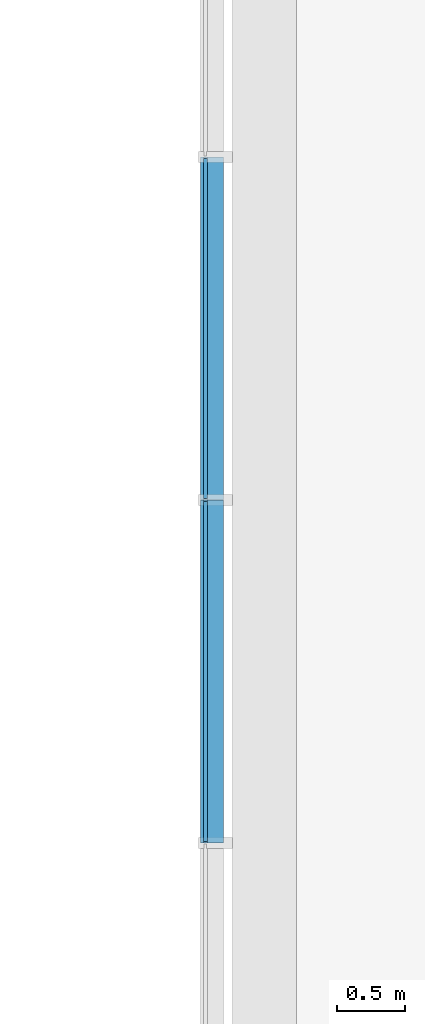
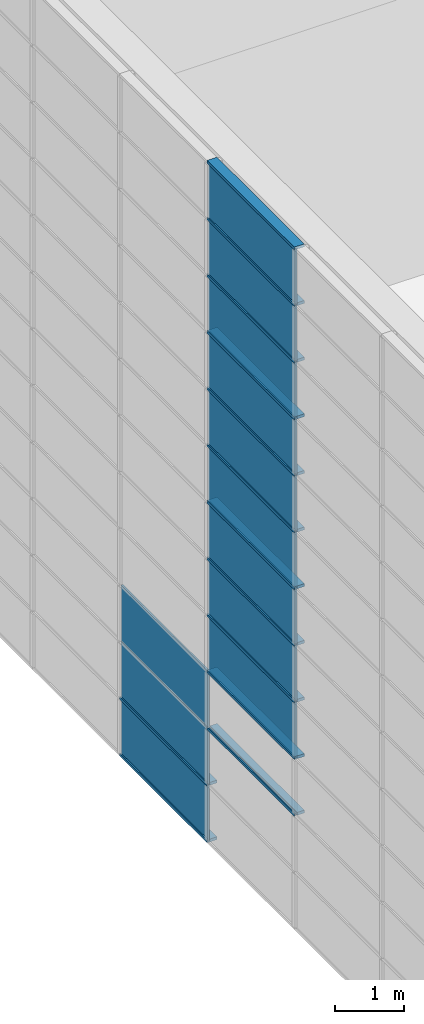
# One storey, part 35 of 105: 28 building element parts, 4 elements without a shape of their own.
"""IFC4 building model written with IfcOpenShell, lengths in millimetres."""

from ifc_helpers import new_model, entity, si_unit, converted_unit, derived_unit, direction, frame, origin_with_axes, place, context, subcontext, project, spatial, triangles, material, element, aggregate, save


model = new_model("IFC4")

# Units and contexts
model_context = context("Model", 3, precision=1e-05, world=origin_with_axes(), true_north=direction((0.0, 1.0)))
body_context = subcontext(model_context, "Body", "Model", "MODEL_VIEW")
ifc_project = project(units=[si_unit("LENGTHUNIT", "METRE", prefix="MILLI"), si_unit("AREAUNIT", "SQUARE_METRE"), si_unit("VOLUMEUNIT", "CUBIC_METRE"), converted_unit("PLANEANGLEUNIT", "DEGREE", entity("IfcLengthMeasure", 0.017453), si_unit("PLANEANGLEUNIT", "RADIAN"), dimensions=[0, 0, 0, 0, 0, 0, 0]), si_unit("SOLIDANGLEUNIT", "STERADIAN"), si_unit("MASSUNIT", "GRAM"), si_unit("TIMEUNIT", "SECOND"), si_unit("THERMODYNAMICTEMPERATUREUNIT", "DEGREE_CELSIUS"), si_unit("LUMINOUSINTENSITYUNIT", "LUMEN"), si_unit("POWERUNIT", "WATT"), derived_unit("THERMALTRANSMITTANCEUNIT", [(si_unit("POWERUNIT", "WATT"), 1), (si_unit("THERMODYNAMICTEMPERATUREUNIT", "KELVIN"), -1), (si_unit("AREAUNIT", "SQUARE_METRE"), -1)])], contexts=[model_context])

# Site, building, storey
site_placement = place(None, origin_with_axes())
site = spatial("IfcSite", under=ifc_project, at=site_placement, Name="Default Site", CompositionType="ELEMENT")
building_placement = place(site_placement, origin_with_axes())
building = spatial("IfcBuilding", under=site, at=building_placement, Name="Default Building", CompositionType="ELEMENT")
storey_placement = place(building_placement, origin_with_axes())
storey = spatial("IfcBuildingStorey", under=building, at=storey_placement, Name="OG - Story", CompositionType="ELEMENT", Elevation=0.0)

# Curtain wall, building element parts
curtain_wall_1_placement = place(storey_placement, origin_with_axes())
curtain_wall_1 = element("IfcCurtainWall", 1, at=curtain_wall_1_placement, inside=storey, Name="Fassade-003", PredefinedType="NOTDEFINED")
ifc_material_1 = material(Name="Normalglas")
building_element_part_1_placement = place(curtain_wall_1_placement, frame((31551.391327, -51326.104944, 0.0), z_axis=(0.0, 0.0, 1.0), x_axis=(1.0, 0.0, 0.0)))
building_element_part_1 = element("IfcBuildingElementPart", 2, at=building_element_part_1_placement, material=ifc_material_1, Name="Normalglas", PredefinedType="NOTDEFINED", context=body_context, shape_type="Tessellation", body=[
    triangles([(15.0, 41674.211, 995.0), (-14.999, 41674.211, 995.0), (-14.999, 39167.895, 995.0), (15.0, 39167.895, 995.0), (15.0, 41674.211, 5.0), (-14.999, 41674.211, 5.0), (-14.999, 39167.895, 5.0), (15.0, 39167.895, 5.0)], [[1, 2, 3], [1, 3, 4], [5, 6, 2], [5, 2, 1], [2, 6, 7], [2, 7, 3], [4, 3, 7], [4, 7, 8], [1, 4, 8], [1, 8, 5], [8, 7, 6], [8, 6, 5]], closed=False),
])
building_element_part_2_placement = place(curtain_wall_1_placement, frame((31551.391327, -51326.104944, 0.0), z_axis=(0.0, 0.0, 1.0), x_axis=(1.0, 0.0, 0.0)))
building_element_part_2 = element("IfcBuildingElementPart", 3, at=building_element_part_2_placement, material=ifc_material_1, Name="Normalglas", PredefinedType="NOTDEFINED", context=body_context, shape_type="Tessellation", body=[
    triangles([(15.0, 41674.211, 1995.0), (-14.999, 41674.211, 1995.0), (-14.999, 39167.895, 1995.0), (15.0, 39167.895, 1995.0), (15.0, 41674.211, 1005.0), (-14.999, 41674.211, 1005.0), (-14.999, 39167.895, 1005.0), (15.0, 39167.895, 1005.0)], [[1, 2, 3], [1, 3, 4], [5, 6, 2], [5, 2, 1], [2, 6, 7], [2, 7, 3], [4, 3, 7], [4, 7, 8], [1, 4, 8], [1, 8, 5], [8, 7, 6], [8, 6, 5]], closed=False),
])
building_element_part_3_placement = place(curtain_wall_1_placement, frame((31551.391327, -51326.104944, 0.0), z_axis=(0.0, 0.0, 1.0), x_axis=(1.0, 0.0, 0.0)))
building_element_part_3 = element("IfcBuildingElementPart", 4, at=building_element_part_3_placement, material=ifc_material_1, Name="Normalglas", PredefinedType="NOTDEFINED", context=body_context, shape_type="Tessellation", body=[
    triangles([(15.0, 41674.211, 2995.0), (-14.999, 41674.211, 2995.0), (-14.999, 39167.895, 2995.0), (15.0, 39167.895, 2995.0), (15.0, 41674.211, 2005.0), (-14.999, 41674.211, 2005.0), (-14.999, 39167.895, 2005.0), (15.0, 39167.895, 2005.0)], [[1, 2, 3], [1, 3, 4], [5, 6, 2], [5, 2, 1], [2, 6, 7], [2, 7, 3], [4, 3, 7], [4, 7, 8], [1, 4, 8], [1, 8, 5], [8, 7, 6], [8, 6, 5]], closed=False),
])
ifc_material_2 = material(Name="Blech")
building_element_part_4_placement = place(curtain_wall_1_placement, frame((31551.391327, -51326.104944, 0.0), z_axis=(0.0, 0.0, 1.0), x_axis=(1.0, 0.0, 0.0)))
building_element_part_4 = element("IfcBuildingElementPart", 5, at=building_element_part_4_placement, material=ifc_material_2, Name="Blech", PredefinedType="NOTDEFINED", context=body_context, shape_type="Tessellation", body=[
    triangles([(15.0, 41684.211, 25.0), (133.0, 41684.211, 25.0), (15.0, 41684.211, 5.0), (133.0, 41684.211, -24.999), (-14.999, 41684.211, 5.0), (-34.999, 41684.211, -24.999), (-34.999, 41684.211, 25.0), (-14.999, 41684.211, 25.0), (15.0, 39157.895, 5.0), (15.0, 39157.895, 25.0), (133.0, 39157.895, 25.0), (133.0, 39157.895, -24.999), (-34.999, 39157.895, -24.999), (-34.999, 39157.895, 25.0), (-14.999, 39157.895, 25.0), (-14.999, 39157.895, 5.0)], [[1, 2, 3], [3, 2, 4], [3, 4, 5], [5, 4, 6], [5, 6, 7], [5, 7, 8], [3, 9, 10], [3, 10, 1], [10, 11, 2], [10, 2, 1], [11, 12, 4], [11, 4, 2], [12, 13, 6], [12, 6, 4], [13, 14, 7], [13, 7, 6], [8, 7, 14], [8, 14, 15], [15, 16, 5], [15, 5, 8], [5, 16, 9], [5, 9, 3], [16, 9, 12], [16, 12, 13], [16, 13, 14], [16, 14, 15], [11, 12, 9], [11, 9, 10]], closed=False),
])
building_element_part_5_placement = place(curtain_wall_1_placement, frame((31551.391327, -51326.104944, 0.0), z_axis=(0.0, 0.0, 1.0), x_axis=(1.0, 0.0, 0.0)))
building_element_part_5 = element("IfcBuildingElementPart", 6, at=building_element_part_5_placement, material=ifc_material_2, Name="Blech", PredefinedType="NOTDEFINED", context=body_context, shape_type="Tessellation", body=[
    triangles([(-14.999, 41684.211, 1025.0), (-34.999, 41684.211, 1025.0), (-14.999, 41684.211, 1005.0), (-14.999, 41684.211, 995.0), (15.0, 41684.211, 1005.0), (133.0, 41684.211, 1025.0), (15.0, 41684.211, 1025.0), (-34.999, 41684.211, 975.0), (-14.999, 41684.211, 975.0), (15.0, 41684.211, 995.0), (15.0, 41684.211, 975.0), (133.0, 41684.211, 975.0), (15.0, 39157.895, 995.0), (-14.999, 39157.895, 995.0), (-14.999, 39157.895, 975.0), (-34.999, 39157.895, 975.0), (-34.999, 39157.895, 1025.0), (-14.999, 39157.895, 1025.0), (-14.999, 39157.895, 1005.0), (15.0, 39157.895, 1005.0), (15.0, 39157.895, 1025.0), (133.0, 39157.895, 1025.0), (133.0, 39157.895, 975.0), (15.0, 39157.895, 975.0)], [[1, 2, 3], [3, 2, 4], [3, 4, 5], [5, 4, 6], [5, 6, 7], [8, 9, 4], [8, 4, 2], [6, 4, 10], [6, 10, 11], [6, 11, 12], [10, 13, 14], [10, 14, 4], [4, 14, 15], [4, 15, 9], [15, 16, 8], [15, 8, 9], [8, 16, 17], [8, 17, 2], [18, 1, 2], [18, 2, 17], [1, 18, 19], [1, 19, 3], [5, 3, 19], [5, 19, 20], [7, 5, 20], [7, 20, 21], [7, 21, 22], [7, 22, 6], [6, 22, 23], [6, 23, 12], [11, 12, 23], [11, 23, 24], [11, 24, 13], [11, 13, 10], [21, 22, 20], [20, 22, 13], [20, 13, 19], [19, 13, 14], [19, 14, 17], [17, 14, 15], [17, 15, 16], [23, 24, 13], [23, 13, 22], [19, 17, 18]], closed=False),
])
building_element_part_6_placement = place(curtain_wall_1_placement, frame((31551.391327, -51326.104944, 0.0), z_axis=(0.0, 0.0, 1.0), x_axis=(1.0, 0.0, 0.0)))
building_element_part_6 = element("IfcBuildingElementPart", 7, at=building_element_part_6_placement, material=ifc_material_2, Name="Blech", PredefinedType="NOTDEFINED", context=body_context, shape_type="Tessellation", body=[
    triangles([(-14.999, 39157.895, 2025.0), (-34.999, 39157.895, 2025.0), (-14.999, 39157.895, 2005.0), (-14.999, 39157.895, 1995.0), (15.0, 39157.895, 2005.0), (133.0, 39157.895, 2025.0), (15.0, 39157.895, 2025.0), (-34.999, 39157.895, 1975.0), (-14.999, 39157.895, 1975.0), (15.0, 39157.895, 1995.0), (15.0, 39157.895, 1975.0), (133.0, 39157.895, 1975.0), (15.0, 36631.579, 1995.0), (-14.999, 36631.579, 1995.0), (-14.999, 36631.579, 1975.0), (-34.999, 36631.579, 1975.0), (-34.999, 36631.579, 2025.0), (-14.999, 36631.579, 2025.0), (-14.999, 36631.579, 2005.0), (15.0, 36631.579, 2005.0), (15.0, 36631.579, 2025.0), (133.0, 36631.579, 2025.0), (133.0, 36631.579, 1975.0), (15.0, 36631.579, 1975.0)], [[1, 2, 3], [3, 2, 4], [3, 4, 5], [5, 4, 6], [5, 6, 7], [8, 9, 4], [8, 4, 2], [6, 4, 10], [6, 10, 11], [6, 11, 12], [10, 13, 14], [10, 14, 4], [4, 14, 15], [4, 15, 9], [15, 16, 8], [15, 8, 9], [8, 16, 17], [8, 17, 2], [18, 1, 2], [18, 2, 17], [1, 18, 19], [1, 19, 3], [5, 3, 19], [5, 19, 20], [7, 5, 20], [7, 20, 21], [7, 21, 22], [7, 22, 6], [6, 22, 23], [6, 23, 12], [11, 12, 23], [11, 23, 24], [11, 24, 13], [11, 13, 10], [21, 22, 20], [20, 22, 13], [20, 13, 19], [19, 13, 14], [19, 14, 17], [17, 14, 15], [17, 15, 16], [23, 24, 13], [23, 13, 22], [19, 17, 18]], closed=False),
])
building_element_part_7_placement = place(curtain_wall_1_placement, frame((31551.391327, -51326.104944, 0.0), z_axis=(0.0, 0.0, 1.0), x_axis=(1.0, 0.0, 0.0)))
building_element_part_7 = element("IfcBuildingElementPart", 8, at=building_element_part_7_placement, material=ifc_material_2, Name="Blech", PredefinedType="NOTDEFINED", context=body_context, shape_type="Tessellation", body=[
    triangles([(-14.999, 39157.895, 2995.0), (15.0, 39157.895, 2995.0), (133.0, 39157.895, 3025.0), (-34.999, 39157.895, 3025.0), (-34.999, 39157.895, 2975.0), (-14.999, 39157.895, 2975.0), (15.0, 39157.895, 2975.0), (133.0, 39157.895, 2975.0), (15.0, 36631.579, 2995.0), (-14.999, 36631.579, 2995.0), (-14.999, 36631.579, 2975.0), (-34.999, 36631.579, 2975.0), (-34.999, 36631.579, 3025.0), (133.0, 36631.579, 3025.0), (133.0, 36631.579, 2975.0), (15.0, 36631.579, 2975.0)], [[1, 2, 3], [1, 3, 4], [1, 4, 5], [1, 5, 6], [7, 8, 3], [7, 3, 2], [1, 2, 9], [1, 9, 10], [11, 6, 1], [11, 1, 10], [6, 11, 12], [6, 12, 5], [13, 4, 5], [13, 5, 12], [14, 3, 4], [14, 4, 13], [15, 8, 3], [15, 3, 14], [16, 7, 8], [16, 8, 15], [2, 7, 16], [2, 16, 9], [10, 9, 14], [10, 14, 13], [10, 13, 12], [10, 12, 11], [16, 15, 14], [16, 14, 9]], closed=False),
])
aggregate(curtain_wall_1, [building_element_part_1, building_element_part_2, building_element_part_3, building_element_part_4, building_element_part_5, building_element_part_6, building_element_part_7])

curtain_wall_2_placement = place(storey_placement, origin_with_axes())
curtain_wall_2 = element("IfcCurtainWall", 9, at=curtain_wall_2_placement, inside=storey, Name="Fassade-003", PredefinedType="NOTDEFINED")
building_element_part_8_placement = place(curtain_wall_2_placement, frame((31551.391327, -51326.104944, 3000.0), z_axis=(0.0, 0.0, 1.0), x_axis=(1.0, 0.0, 0.0)))
building_element_part_8 = element("IfcBuildingElementPart", 10, at=building_element_part_8_placement, material=ifc_material_1, Name="Normalglas", PredefinedType="NOTDEFINED", context=body_context, shape_type="Tessellation", body=[
    triangles([(15.0, 39147.895, 995.0), (-14.999, 39147.895, 995.0), (-14.999, 36641.579, 995.0), (15.0, 36641.579, 995.0), (15.0, 39147.895, 5.0), (-14.999, 39147.895, 5.0), (-14.999, 36641.579, 5.0), (15.0, 36641.579, 5.0)], [[1, 2, 3], [1, 3, 4], [5, 6, 2], [5, 2, 1], [2, 6, 7], [2, 7, 3], [4, 3, 7], [4, 7, 8], [1, 4, 8], [1, 8, 5], [8, 7, 6], [8, 6, 5]], closed=False),
])
building_element_part_9_placement = place(curtain_wall_2_placement, frame((31551.391327, -51326.104944, 3000.0), z_axis=(0.0, 0.0, 1.0), x_axis=(1.0, 0.0, 0.0)))
building_element_part_9 = element("IfcBuildingElementPart", 11, at=building_element_part_9_placement, material=ifc_material_1, Name="Normalglas", PredefinedType="NOTDEFINED", context=body_context, shape_type="Tessellation", body=[
    triangles([(15.0, 39147.895, 1995.0), (-14.999, 39147.895, 1995.0), (-14.999, 36641.579, 1995.0), (15.0, 36641.579, 1995.0), (15.0, 39147.895, 1005.0), (-14.999, 39147.895, 1005.0), (-14.999, 36641.579, 1005.0), (15.0, 36641.579, 1005.0)], [[1, 2, 3], [1, 3, 4], [5, 6, 2], [5, 2, 1], [2, 6, 7], [2, 7, 3], [4, 3, 7], [4, 7, 8], [1, 4, 8], [1, 8, 5], [8, 7, 6], [8, 6, 5]], closed=False),
])
building_element_part_10_placement = place(curtain_wall_2_placement, frame((31551.391327, -51326.104944, 3000.0), z_axis=(0.0, 0.0, 1.0), x_axis=(1.0, 0.0, 0.0)))
building_element_part_10 = element("IfcBuildingElementPart", 12, at=building_element_part_10_placement, material=ifc_material_1, Name="Normalglas", PredefinedType="NOTDEFINED", context=body_context, shape_type="Tessellation", body=[
    triangles([(15.0, 39147.895, 2995.0), (-14.999, 39147.895, 2995.0), (-14.999, 36641.579, 2995.0), (15.0, 36641.579, 2995.0), (15.0, 39147.895, 2005.0), (-14.999, 39147.895, 2005.0), (-14.999, 36641.579, 2005.0), (15.0, 36641.579, 2005.0)], [[1, 2, 3], [1, 3, 4], [5, 6, 2], [5, 2, 1], [2, 6, 7], [2, 7, 3], [4, 3, 7], [4, 7, 8], [1, 4, 8], [1, 8, 5], [8, 7, 6], [8, 6, 5]], closed=False),
])
building_element_part_11_placement = place(curtain_wall_2_placement, frame((31551.391327, -51326.104944, 3000.0), z_axis=(0.0, 0.0, 1.0), x_axis=(1.0, 0.0, 0.0)))
building_element_part_11 = element("IfcBuildingElementPart", 13, at=building_element_part_11_placement, material=ifc_material_2, Name="Blech", PredefinedType="NOTDEFINED", context=body_context, shape_type="Tessellation", body=[
    triangles([(15.0, 39157.895, 25.0), (133.0, 39157.895, 25.0), (15.0, 39157.895, 5.0), (133.0, 39157.895, -24.999), (-14.999, 39157.895, 5.0), (-34.999, 39157.895, -24.999), (-34.999, 39157.895, 25.0), (-14.999, 39157.895, 25.0), (15.0, 36631.579, 5.0), (15.0, 36631.579, 25.0), (133.0, 36631.579, 25.0), (133.0, 36631.579, -24.999), (-34.999, 36631.579, -24.999), (-34.999, 36631.579, 25.0), (-14.999, 36631.579, 25.0), (-14.999, 36631.579, 5.0)], [[1, 2, 3], [3, 2, 4], [3, 4, 5], [5, 4, 6], [5, 6, 7], [5, 7, 8], [3, 9, 10], [3, 10, 1], [10, 11, 2], [10, 2, 1], [11, 12, 4], [11, 4, 2], [12, 13, 6], [12, 6, 4], [13, 14, 7], [13, 7, 6], [8, 7, 14], [8, 14, 15], [15, 16, 5], [15, 5, 8], [5, 16, 9], [5, 9, 3], [16, 9, 12], [16, 12, 13], [16, 13, 14], [16, 14, 15], [11, 12, 9], [11, 9, 10]], closed=False),
])
building_element_part_12_placement = place(curtain_wall_2_placement, frame((31551.391327, -51326.104944, 3000.0), z_axis=(0.0, 0.0, 1.0), x_axis=(1.0, 0.0, 0.0)))
building_element_part_12 = element("IfcBuildingElementPart", 14, at=building_element_part_12_placement, material=ifc_material_2, Name="Blech", PredefinedType="NOTDEFINED", context=body_context, shape_type="Tessellation", body=[
    triangles([(-14.999, 39157.895, 1025.0), (-34.999, 39157.895, 1025.0), (-14.999, 39157.895, 1005.0), (-14.999, 39157.895, 995.0), (15.0, 39157.895, 1005.0), (133.0, 39157.895, 1025.0), (15.0, 39157.895, 1025.0), (-34.999, 39157.895, 975.0), (-14.999, 39157.895, 975.0), (15.0, 39157.895, 995.0), (15.0, 39157.895, 975.0), (133.0, 39157.895, 975.0), (15.0, 36631.579, 995.0), (-14.999, 36631.579, 995.0), (-14.999, 36631.579, 975.0), (-34.999, 36631.579, 975.0), (-34.999, 36631.579, 1025.0), (-14.999, 36631.579, 1025.0), (-14.999, 36631.579, 1005.0), (15.0, 36631.579, 1005.0), (15.0, 36631.579, 1025.0), (133.0, 36631.579, 1025.0), (133.0, 36631.579, 975.0), (15.0, 36631.579, 975.0)], [[1, 2, 3], [3, 2, 4], [3, 4, 5], [5, 4, 6], [5, 6, 7], [8, 9, 4], [8, 4, 2], [6, 4, 10], [6, 10, 11], [6, 11, 12], [10, 13, 14], [10, 14, 4], [4, 14, 15], [4, 15, 9], [15, 16, 8], [15, 8, 9], [8, 16, 17], [8, 17, 2], [18, 1, 2], [18, 2, 17], [1, 18, 19], [1, 19, 3], [5, 3, 19], [5, 19, 20], [7, 5, 20], [7, 20, 21], [7, 21, 22], [7, 22, 6], [6, 22, 23], [6, 23, 12], [11, 12, 23], [11, 23, 24], [11, 24, 13], [11, 13, 10], [21, 22, 20], [20, 22, 13], [20, 13, 19], [19, 13, 14], [19, 14, 17], [17, 14, 15], [17, 15, 16], [23, 24, 13], [23, 13, 22], [19, 17, 18]], closed=False),
])
building_element_part_13_placement = place(curtain_wall_2_placement, frame((31551.391327, -51326.104944, 3000.0), z_axis=(0.0, 0.0, 1.0), x_axis=(1.0, 0.0, 0.0)))
building_element_part_13 = element("IfcBuildingElementPart", 15, at=building_element_part_13_placement, material=ifc_material_2, Name="Blech", PredefinedType="NOTDEFINED", context=body_context, shape_type="Tessellation", body=[
    triangles([(-14.999, 39157.895, 2025.0), (-34.999, 39157.895, 2025.0), (-14.999, 39157.895, 2005.0), (-14.999, 39157.895, 1995.0), (15.0, 39157.895, 2005.0), (133.0, 39157.895, 2025.0), (15.0, 39157.895, 2025.0), (-34.999, 39157.895, 1975.0), (-14.999, 39157.895, 1975.0), (15.0, 39157.895, 1995.0), (15.0, 39157.895, 1975.0), (133.0, 39157.895, 1975.0), (15.0, 36631.579, 1995.0), (-14.999, 36631.579, 1995.0), (-14.999, 36631.579, 1975.0), (-34.999, 36631.579, 1975.0), (-34.999, 36631.579, 2025.0), (-14.999, 36631.579, 2025.0), (-14.999, 36631.579, 2005.0), (15.0, 36631.579, 2005.0), (15.0, 36631.579, 2025.0), (133.0, 36631.579, 2025.0), (133.0, 36631.579, 1975.0), (15.0, 36631.579, 1975.0)], [[1, 2, 3], [3, 2, 4], [3, 4, 5], [5, 4, 6], [5, 6, 7], [8, 9, 4], [8, 4, 2], [6, 4, 10], [6, 10, 11], [6, 11, 12], [10, 13, 14], [10, 14, 4], [4, 14, 15], [4, 15, 9], [15, 16, 8], [15, 8, 9], [8, 16, 17], [8, 17, 2], [18, 1, 2], [18, 2, 17], [1, 18, 19], [1, 19, 3], [5, 3, 19], [5, 19, 20], [7, 5, 20], [7, 20, 21], [7, 21, 22], [7, 22, 6], [6, 22, 23], [6, 23, 12], [11, 12, 23], [11, 23, 24], [11, 24, 13], [11, 13, 10], [21, 22, 20], [20, 22, 13], [20, 13, 19], [19, 13, 14], [19, 14, 17], [17, 14, 15], [17, 15, 16], [23, 24, 13], [23, 13, 22], [19, 17, 18]], closed=False),
])
building_element_part_14_placement = place(curtain_wall_2_placement, frame((31551.391327, -51326.104944, 3000.0), z_axis=(0.0, 0.0, 1.0), x_axis=(1.0, 0.0, 0.0)))
building_element_part_14 = element("IfcBuildingElementPart", 16, at=building_element_part_14_placement, material=ifc_material_2, Name="Blech", PredefinedType="NOTDEFINED", context=body_context, shape_type="Tessellation", body=[
    triangles([(-14.999, 39157.895, 2995.0), (15.0, 39157.895, 2995.0), (133.0, 39157.895, 3025.0), (-34.999, 39157.895, 3025.0), (-34.999, 39157.895, 2975.0), (-14.999, 39157.895, 2975.0), (15.0, 39157.895, 2975.0), (133.0, 39157.895, 2975.0), (15.0, 36631.579, 2995.0), (-14.999, 36631.579, 2995.0), (-14.999, 36631.579, 2975.0), (-34.999, 36631.579, 2975.0), (-34.999, 36631.579, 3025.0), (133.0, 36631.579, 3025.0), (133.0, 36631.579, 2975.0), (15.0, 36631.579, 2975.0)], [[1, 2, 3], [1, 3, 4], [1, 4, 5], [1, 5, 6], [7, 8, 3], [7, 3, 2], [1, 2, 9], [1, 9, 10], [11, 6, 1], [11, 1, 10], [6, 11, 12], [6, 12, 5], [13, 4, 5], [13, 5, 12], [14, 3, 4], [14, 4, 13], [15, 8, 3], [15, 3, 14], [16, 7, 8], [16, 8, 15], [2, 7, 16], [2, 16, 9], [10, 9, 14], [10, 14, 13], [10, 13, 12], [10, 12, 11], [16, 15, 14], [16, 14, 9]], closed=False),
])
aggregate(curtain_wall_2, [building_element_part_8, building_element_part_9, building_element_part_10, building_element_part_11, building_element_part_12, building_element_part_13, building_element_part_14])

curtain_wall_3_placement = place(storey_placement, origin_with_axes())
curtain_wall_3 = element("IfcCurtainWall", 17, at=curtain_wall_3_placement, inside=storey, Name="Fassade-003", PredefinedType="NOTDEFINED")
building_element_part_15_placement = place(curtain_wall_3_placement, frame((31551.391327, -51326.104944, 6000.0), z_axis=(0.0, 0.0, 1.0), x_axis=(1.0, 0.0, 0.0)))
building_element_part_15 = element("IfcBuildingElementPart", 18, at=building_element_part_15_placement, material=ifc_material_1, Name="Normalglas", PredefinedType="NOTDEFINED", context=body_context, shape_type="Tessellation", body=[
    triangles([(15.0, 39147.895, 995.0), (-14.999, 39147.895, 995.0), (-14.999, 36641.579, 995.0), (15.0, 36641.579, 995.0), (15.0, 39147.895, 5.0), (-14.999, 39147.895, 5.0), (-14.999, 36641.579, 5.0), (15.0, 36641.579, 5.0)], [[1, 2, 3], [1, 3, 4], [5, 6, 2], [5, 2, 1], [2, 6, 7], [2, 7, 3], [4, 3, 7], [4, 7, 8], [1, 4, 8], [1, 8, 5], [8, 7, 6], [8, 6, 5]], closed=False),
])
building_element_part_16_placement = place(curtain_wall_3_placement, frame((31551.391327, -51326.104944, 6000.0), z_axis=(0.0, 0.0, 1.0), x_axis=(1.0, 0.0, 0.0)))
building_element_part_16 = element("IfcBuildingElementPart", 19, at=building_element_part_16_placement, material=ifc_material_1, Name="Normalglas", PredefinedType="NOTDEFINED", context=body_context, shape_type="Tessellation", body=[
    triangles([(15.0, 39147.895, 1995.0), (-14.999, 39147.895, 1995.0), (-14.999, 36641.579, 1995.0), (15.0, 36641.579, 1995.0), (15.0, 39147.895, 1005.0), (-14.999, 39147.895, 1005.0), (-14.999, 36641.579, 1005.0), (15.0, 36641.579, 1005.0)], [[1, 2, 3], [1, 3, 4], [5, 6, 2], [5, 2, 1], [2, 6, 7], [2, 7, 3], [4, 3, 7], [4, 7, 8], [1, 4, 8], [1, 8, 5], [8, 7, 6], [8, 6, 5]], closed=False),
])
building_element_part_17_placement = place(curtain_wall_3_placement, frame((31551.391327, -51326.104944, 6000.0), z_axis=(0.0, 0.0, 1.0), x_axis=(1.0, 0.0, 0.0)))
building_element_part_17 = element("IfcBuildingElementPart", 20, at=building_element_part_17_placement, material=ifc_material_1, Name="Normalglas", PredefinedType="NOTDEFINED", context=body_context, shape_type="Tessellation", body=[
    triangles([(15.0, 39147.895, 2995.0), (-14.999, 39147.895, 2995.0), (-14.999, 36641.579, 2995.0), (15.0, 36641.579, 2995.0), (15.0, 39147.895, 2005.0), (-14.999, 39147.895, 2005.0), (-14.999, 36641.579, 2005.0), (15.0, 36641.579, 2005.0)], [[1, 2, 3], [1, 3, 4], [5, 6, 2], [5, 2, 1], [2, 6, 7], [2, 7, 3], [4, 3, 7], [4, 7, 8], [1, 4, 8], [1, 8, 5], [8, 7, 6], [8, 6, 5]], closed=False),
])
building_element_part_18_placement = place(curtain_wall_3_placement, frame((31551.391327, -51326.104944, 6000.0), z_axis=(0.0, 0.0, 1.0), x_axis=(1.0, 0.0, 0.0)))
building_element_part_18 = element("IfcBuildingElementPart", 21, at=building_element_part_18_placement, material=ifc_material_2, Name="Blech", PredefinedType="NOTDEFINED", context=body_context, shape_type="Tessellation", body=[
    triangles([(15.0, 39157.895, 25.0), (133.0, 39157.895, 25.0), (15.0, 39157.895, 5.0), (133.0, 39157.895, -24.999), (-14.999, 39157.895, 5.0), (-34.999, 39157.895, -24.999), (-34.999, 39157.895, 25.0), (-14.999, 39157.895, 25.0), (15.0, 36631.579, 5.0), (15.0, 36631.579, 25.0), (133.0, 36631.579, 25.0), (133.0, 36631.579, -24.999), (-34.999, 36631.579, -24.999), (-34.999, 36631.579, 25.0), (-14.999, 36631.579, 25.0), (-14.999, 36631.579, 5.0)], [[1, 2, 3], [3, 2, 4], [3, 4, 5], [5, 4, 6], [5, 6, 7], [5, 7, 8], [3, 9, 10], [3, 10, 1], [10, 11, 2], [10, 2, 1], [11, 12, 4], [11, 4, 2], [12, 13, 6], [12, 6, 4], [13, 14, 7], [13, 7, 6], [8, 7, 14], [8, 14, 15], [15, 16, 5], [15, 5, 8], [5, 16, 9], [5, 9, 3], [16, 9, 12], [16, 12, 13], [16, 13, 14], [16, 14, 15], [11, 12, 9], [11, 9, 10]], closed=False),
])
building_element_part_19_placement = place(curtain_wall_3_placement, frame((31551.391327, -51326.104944, 6000.0), z_axis=(0.0, 0.0, 1.0), x_axis=(1.0, 0.0, 0.0)))
building_element_part_19 = element("IfcBuildingElementPart", 22, at=building_element_part_19_placement, material=ifc_material_2, Name="Blech", PredefinedType="NOTDEFINED", context=body_context, shape_type="Tessellation", body=[
    triangles([(-14.999, 39157.895, 1025.0), (-34.999, 39157.895, 1025.0), (-14.999, 39157.895, 1005.0), (-14.999, 39157.895, 995.0), (15.0, 39157.895, 1005.0), (133.0, 39157.895, 1025.0), (15.0, 39157.895, 1025.0), (-34.999, 39157.895, 975.0), (-14.999, 39157.895, 975.0), (15.0, 39157.895, 995.0), (15.0, 39157.895, 975.0), (133.0, 39157.895, 975.0), (15.0, 36631.579, 995.0), (-14.999, 36631.579, 995.0), (-14.999, 36631.579, 975.0), (-34.999, 36631.579, 975.0), (-34.999, 36631.579, 1025.0), (-14.999, 36631.579, 1025.0), (-14.999, 36631.579, 1005.0), (15.0, 36631.579, 1005.0), (15.0, 36631.579, 1025.0), (133.0, 36631.579, 1025.0), (133.0, 36631.579, 975.0), (15.0, 36631.579, 975.0)], [[1, 2, 3], [3, 2, 4], [3, 4, 5], [5, 4, 6], [5, 6, 7], [8, 9, 4], [8, 4, 2], [6, 4, 10], [6, 10, 11], [6, 11, 12], [10, 13, 14], [10, 14, 4], [4, 14, 15], [4, 15, 9], [15, 16, 8], [15, 8, 9], [8, 16, 17], [8, 17, 2], [18, 1, 2], [18, 2, 17], [1, 18, 19], [1, 19, 3], [5, 3, 19], [5, 19, 20], [7, 5, 20], [7, 20, 21], [7, 21, 22], [7, 22, 6], [6, 22, 23], [6, 23, 12], [11, 12, 23], [11, 23, 24], [11, 24, 13], [11, 13, 10], [21, 22, 20], [20, 22, 13], [20, 13, 19], [19, 13, 14], [19, 14, 17], [17, 14, 15], [17, 15, 16], [23, 24, 13], [23, 13, 22], [19, 17, 18]], closed=False),
])
building_element_part_20_placement = place(curtain_wall_3_placement, frame((31551.391327, -51326.104944, 6000.0), z_axis=(0.0, 0.0, 1.0), x_axis=(1.0, 0.0, 0.0)))
building_element_part_20 = element("IfcBuildingElementPart", 23, at=building_element_part_20_placement, material=ifc_material_2, Name="Blech", PredefinedType="NOTDEFINED", context=body_context, shape_type="Tessellation", body=[
    triangles([(-14.999, 39157.895, 2025.0), (-34.999, 39157.895, 2025.0), (-14.999, 39157.895, 2005.0), (-14.999, 39157.895, 1995.0), (15.0, 39157.895, 2005.0), (133.0, 39157.895, 2025.0), (15.0, 39157.895, 2025.0), (-34.999, 39157.895, 1975.0), (-14.999, 39157.895, 1975.0), (15.0, 39157.895, 1995.0), (15.0, 39157.895, 1975.0), (133.0, 39157.895, 1975.0), (15.0, 36631.579, 1995.0), (-14.999, 36631.579, 1995.0), (-14.999, 36631.579, 1975.0), (-34.999, 36631.579, 1975.0), (-34.999, 36631.579, 2025.0), (-14.999, 36631.579, 2025.0), (-14.999, 36631.579, 2005.0), (15.0, 36631.579, 2005.0), (15.0, 36631.579, 2025.0), (133.0, 36631.579, 2025.0), (133.0, 36631.579, 1975.0), (15.0, 36631.579, 1975.0)], [[1, 2, 3], [3, 2, 4], [3, 4, 5], [5, 4, 6], [5, 6, 7], [8, 9, 4], [8, 4, 2], [6, 4, 10], [6, 10, 11], [6, 11, 12], [10, 13, 14], [10, 14, 4], [4, 14, 15], [4, 15, 9], [15, 16, 8], [15, 8, 9], [8, 16, 17], [8, 17, 2], [18, 1, 2], [18, 2, 17], [1, 18, 19], [1, 19, 3], [5, 3, 19], [5, 19, 20], [7, 5, 20], [7, 20, 21], [7, 21, 22], [7, 22, 6], [6, 22, 23], [6, 23, 12], [11, 12, 23], [11, 23, 24], [11, 24, 13], [11, 13, 10], [21, 22, 20], [20, 22, 13], [20, 13, 19], [19, 13, 14], [19, 14, 17], [17, 14, 15], [17, 15, 16], [23, 24, 13], [23, 13, 22], [19, 17, 18]], closed=False),
])
building_element_part_21_placement = place(curtain_wall_3_placement, frame((31551.391327, -51326.104944, 6000.0), z_axis=(0.0, 0.0, 1.0), x_axis=(1.0, 0.0, 0.0)))
building_element_part_21 = element("IfcBuildingElementPart", 24, at=building_element_part_21_placement, material=ifc_material_2, Name="Blech", PredefinedType="NOTDEFINED", context=body_context, shape_type="Tessellation", body=[
    triangles([(-14.999, 39157.895, 2995.0), (15.0, 39157.895, 2995.0), (133.0, 39157.895, 3025.0), (-34.999, 39157.895, 3025.0), (-34.999, 39157.895, 2975.0), (-14.999, 39157.895, 2975.0), (15.0, 39157.895, 2975.0), (133.0, 39157.895, 2975.0), (15.0, 36631.579, 2995.0), (-14.999, 36631.579, 2995.0), (-14.999, 36631.579, 2975.0), (-34.999, 36631.579, 2975.0), (-34.999, 36631.579, 3025.0), (133.0, 36631.579, 3025.0), (133.0, 36631.579, 2975.0), (15.0, 36631.579, 2975.0)], [[1, 2, 3], [1, 3, 4], [1, 4, 5], [1, 5, 6], [7, 8, 3], [7, 3, 2], [1, 2, 9], [1, 9, 10], [11, 6, 1], [11, 1, 10], [6, 11, 12], [6, 12, 5], [13, 4, 5], [13, 5, 12], [14, 3, 4], [14, 4, 13], [15, 8, 3], [15, 3, 14], [16, 7, 8], [16, 8, 15], [2, 7, 16], [2, 16, 9], [10, 9, 14], [10, 14, 13], [10, 13, 12], [10, 12, 11], [16, 15, 14], [16, 14, 9]], closed=False),
])
aggregate(curtain_wall_3, [building_element_part_15, building_element_part_16, building_element_part_17, building_element_part_18, building_element_part_19, building_element_part_20, building_element_part_21])

curtain_wall_4_placement = place(storey_placement, origin_with_axes())
curtain_wall_4 = element("IfcCurtainWall", 25, at=curtain_wall_4_placement, inside=storey, Name="Fassade-003", PredefinedType="NOTDEFINED")
building_element_part_22_placement = place(curtain_wall_4_placement, frame((31551.391327, -51326.104944, 9000.0), z_axis=(0.0, 0.0, 1.0), x_axis=(1.0, 0.0, 0.0)))
building_element_part_22 = element("IfcBuildingElementPart", 26, at=building_element_part_22_placement, material=ifc_material_1, Name="Normalglas", PredefinedType="NOTDEFINED", context=body_context, shape_type="Tessellation", body=[
    triangles([(15.0, 39147.895, 995.0), (-14.999, 39147.895, 995.0), (-14.999, 36641.579, 995.0), (15.0, 36641.579, 995.0), (15.0, 39147.895, 5.0), (-14.999, 39147.895, 5.0), (-14.999, 36641.579, 5.0), (15.0, 36641.579, 5.0)], [[1, 2, 3], [1, 3, 4], [5, 6, 2], [5, 2, 1], [2, 6, 7], [2, 7, 3], [4, 3, 7], [4, 7, 8], [1, 4, 8], [1, 8, 5], [8, 7, 6], [8, 6, 5]], closed=False),
])
building_element_part_23_placement = place(curtain_wall_4_placement, frame((31551.391327, -51326.104944, 9000.0), z_axis=(0.0, 0.0, 1.0), x_axis=(1.0, 0.0, 0.0)))
building_element_part_23 = element("IfcBuildingElementPart", 27, at=building_element_part_23_placement, material=ifc_material_1, Name="Normalglas", PredefinedType="NOTDEFINED", context=body_context, shape_type="Tessellation", body=[
    triangles([(15.0, 39147.895, 1995.0), (-14.999, 39147.895, 1995.0), (-14.999, 36641.579, 1995.0), (15.0, 36641.579, 1995.0), (15.0, 39147.895, 1005.0), (-14.999, 39147.895, 1005.0), (-14.999, 36641.579, 1005.0), (15.0, 36641.579, 1005.0)], [[1, 2, 3], [1, 3, 4], [5, 6, 2], [5, 2, 1], [2, 6, 7], [2, 7, 3], [4, 3, 7], [4, 7, 8], [1, 4, 8], [1, 8, 5], [8, 7, 6], [8, 6, 5]], closed=False),
])
building_element_part_24_placement = place(curtain_wall_4_placement, frame((31551.391327, -51326.104944, 9000.0), z_axis=(0.0, 0.0, 1.0), x_axis=(1.0, 0.0, 0.0)))
building_element_part_24 = element("IfcBuildingElementPart", 28, at=building_element_part_24_placement, material=ifc_material_1, Name="Normalglas", PredefinedType="NOTDEFINED", context=body_context, shape_type="Tessellation", body=[
    triangles([(15.0, 39147.895, 2995.0), (-14.999, 39147.895, 2995.0), (-14.999, 36641.579, 2995.0), (15.0, 36641.579, 2995.0), (15.0, 39147.895, 2005.0), (-14.999, 39147.895, 2005.0), (-14.999, 36641.579, 2005.0), (15.0, 36641.579, 2005.0)], [[1, 2, 3], [1, 3, 4], [5, 6, 2], [5, 2, 1], [2, 6, 7], [2, 7, 3], [4, 3, 7], [4, 7, 8], [1, 4, 8], [1, 8, 5], [8, 7, 6], [8, 6, 5]], closed=False),
])
building_element_part_25_placement = place(curtain_wall_4_placement, frame((31551.391327, -51326.104944, 9000.0), z_axis=(0.0, 0.0, 1.0), x_axis=(1.0, 0.0, 0.0)))
building_element_part_25 = element("IfcBuildingElementPart", 29, at=building_element_part_25_placement, material=ifc_material_2, Name="Blech", PredefinedType="NOTDEFINED", context=body_context, shape_type="Tessellation", body=[
    triangles([(15.0, 39157.895, 25.0), (133.0, 39157.895, 25.0), (15.0, 39157.895, 5.0), (133.0, 39157.895, -24.999), (-14.999, 39157.895, 5.0), (-34.999, 39157.895, -24.999), (-34.999, 39157.895, 25.0), (-14.999, 39157.895, 25.0), (15.0, 36631.579, 5.0), (15.0, 36631.579, 25.0), (133.0, 36631.579, 25.0), (133.0, 36631.579, -24.999), (-34.999, 36631.579, -24.999), (-34.999, 36631.579, 25.0), (-14.999, 36631.579, 25.0), (-14.999, 36631.579, 5.0)], [[1, 2, 3], [3, 2, 4], [3, 4, 5], [5, 4, 6], [5, 6, 7], [5, 7, 8], [3, 9, 10], [3, 10, 1], [10, 11, 2], [10, 2, 1], [11, 12, 4], [11, 4, 2], [12, 13, 6], [12, 6, 4], [13, 14, 7], [13, 7, 6], [8, 7, 14], [8, 14, 15], [15, 16, 5], [15, 5, 8], [5, 16, 9], [5, 9, 3], [16, 9, 12], [16, 12, 13], [16, 13, 14], [16, 14, 15], [11, 12, 9], [11, 9, 10]], closed=False),
])
building_element_part_26_placement = place(curtain_wall_4_placement, frame((31551.391327, -51326.104944, 9000.0), z_axis=(0.0, 0.0, 1.0), x_axis=(1.0, 0.0, 0.0)))
building_element_part_26 = element("IfcBuildingElementPart", 30, at=building_element_part_26_placement, material=ifc_material_2, Name="Blech", PredefinedType="NOTDEFINED", context=body_context, shape_type="Tessellation", body=[
    triangles([(-14.999, 39157.895, 1025.0), (-34.999, 39157.895, 1025.0), (-14.999, 39157.895, 1005.0), (-14.999, 39157.895, 995.0), (15.0, 39157.895, 1005.0), (133.0, 39157.895, 1025.0), (15.0, 39157.895, 1025.0), (-34.999, 39157.895, 975.0), (-14.999, 39157.895, 975.0), (15.0, 39157.895, 995.0), (15.0, 39157.895, 975.0), (133.0, 39157.895, 975.0), (15.0, 36631.579, 995.0), (-14.999, 36631.579, 995.0), (-14.999, 36631.579, 975.0), (-34.999, 36631.579, 975.0), (-34.999, 36631.579, 1025.0), (-14.999, 36631.579, 1025.0), (-14.999, 36631.579, 1005.0), (15.0, 36631.579, 1005.0), (15.0, 36631.579, 1025.0), (133.0, 36631.579, 1025.0), (133.0, 36631.579, 975.0), (15.0, 36631.579, 975.0)], [[1, 2, 3], [3, 2, 4], [3, 4, 5], [5, 4, 6], [5, 6, 7], [8, 9, 4], [8, 4, 2], [6, 4, 10], [6, 10, 11], [6, 11, 12], [10, 13, 14], [10, 14, 4], [4, 14, 15], [4, 15, 9], [15, 16, 8], [15, 8, 9], [8, 16, 17], [8, 17, 2], [18, 1, 2], [18, 2, 17], [1, 18, 19], [1, 19, 3], [5, 3, 19], [5, 19, 20], [7, 5, 20], [7, 20, 21], [7, 21, 22], [7, 22, 6], [6, 22, 23], [6, 23, 12], [11, 12, 23], [11, 23, 24], [11, 24, 13], [11, 13, 10], [21, 22, 20], [20, 22, 13], [20, 13, 19], [19, 13, 14], [19, 14, 17], [17, 14, 15], [17, 15, 16], [23, 24, 13], [23, 13, 22], [19, 17, 18]], closed=False),
])
building_element_part_27_placement = place(curtain_wall_4_placement, frame((31551.391327, -51326.104944, 9000.0), z_axis=(0.0, 0.0, 1.0), x_axis=(1.0, 0.0, 0.0)))
building_element_part_27 = element("IfcBuildingElementPart", 31, at=building_element_part_27_placement, material=ifc_material_2, Name="Blech", PredefinedType="NOTDEFINED", context=body_context, shape_type="Tessellation", body=[
    triangles([(-14.999, 39157.895, 2025.0), (-34.999, 39157.895, 2025.0), (-14.999, 39157.895, 2005.0), (-14.999, 39157.895, 1995.0), (15.0, 39157.895, 2005.0), (133.0, 39157.895, 2025.0), (15.0, 39157.895, 2025.0), (-34.999, 39157.895, 1975.0), (-14.999, 39157.895, 1975.0), (15.0, 39157.895, 1995.0), (15.0, 39157.895, 1975.0), (133.0, 39157.895, 1975.0), (15.0, 36631.579, 1995.0), (-14.999, 36631.579, 1995.0), (-14.999, 36631.579, 1975.0), (-34.999, 36631.579, 1975.0), (-34.999, 36631.579, 2025.0), (-14.999, 36631.579, 2025.0), (-14.999, 36631.579, 2005.0), (15.0, 36631.579, 2005.0), (15.0, 36631.579, 2025.0), (133.0, 36631.579, 2025.0), (133.0, 36631.579, 1975.0), (15.0, 36631.579, 1975.0)], [[1, 2, 3], [3, 2, 4], [3, 4, 5], [5, 4, 6], [5, 6, 7], [8, 9, 4], [8, 4, 2], [6, 4, 10], [6, 10, 11], [6, 11, 12], [10, 13, 14], [10, 14, 4], [4, 14, 15], [4, 15, 9], [15, 16, 8], [15, 8, 9], [8, 16, 17], [8, 17, 2], [18, 1, 2], [18, 2, 17], [1, 18, 19], [1, 19, 3], [5, 3, 19], [5, 19, 20], [7, 5, 20], [7, 20, 21], [7, 21, 22], [7, 22, 6], [6, 22, 23], [6, 23, 12], [11, 12, 23], [11, 23, 24], [11, 24, 13], [11, 13, 10], [21, 22, 20], [20, 22, 13], [20, 13, 19], [19, 13, 14], [19, 14, 17], [17, 14, 15], [17, 15, 16], [23, 24, 13], [23, 13, 22], [19, 17, 18]], closed=False),
])
building_element_part_28_placement = place(curtain_wall_4_placement, frame((31551.391327, -51326.104944, 9000.0), z_axis=(0.0, 0.0, 1.0), x_axis=(1.0, 0.0, 0.0)))
building_element_part_28 = element("IfcBuildingElementPart", 32, at=building_element_part_28_placement, material=ifc_material_2, Name="Blech", PredefinedType="NOTDEFINED", context=body_context, shape_type="Tessellation", body=[
    triangles([(-14.999, 39157.895, 2995.0), (15.0, 39157.895, 2995.0), (133.0, 39157.895, 3025.0), (-34.999, 39157.895, 3025.0), (-34.999, 39157.895, 2975.0), (-14.999, 39157.895, 2975.0), (15.0, 39157.895, 2975.0), (133.0, 39157.895, 2975.0), (15.0, 36631.579, 2995.0), (-14.999, 36631.579, 2995.0), (-14.999, 36631.579, 2975.0), (-34.999, 36631.579, 2975.0), (-34.999, 36631.579, 3025.0), (133.0, 36631.579, 3025.0), (133.0, 36631.579, 2975.0), (15.0, 36631.579, 2975.0)], [[1, 2, 3], [1, 3, 4], [1, 4, 5], [1, 5, 6], [7, 8, 3], [7, 3, 2], [1, 2, 9], [1, 9, 10], [11, 6, 1], [11, 1, 10], [6, 11, 12], [6, 12, 5], [13, 4, 5], [13, 5, 12], [14, 3, 4], [14, 4, 13], [15, 8, 3], [15, 3, 14], [16, 7, 8], [16, 8, 15], [2, 7, 16], [2, 16, 9], [10, 9, 14], [10, 14, 13], [10, 13, 12], [10, 12, 11], [16, 15, 14], [16, 14, 9]], closed=False),
])
aggregate(curtain_wall_4, [building_element_part_22, building_element_part_23, building_element_part_24, building_element_part_25, building_element_part_26, building_element_part_27, building_element_part_28])

save(model, "model.ifc")
